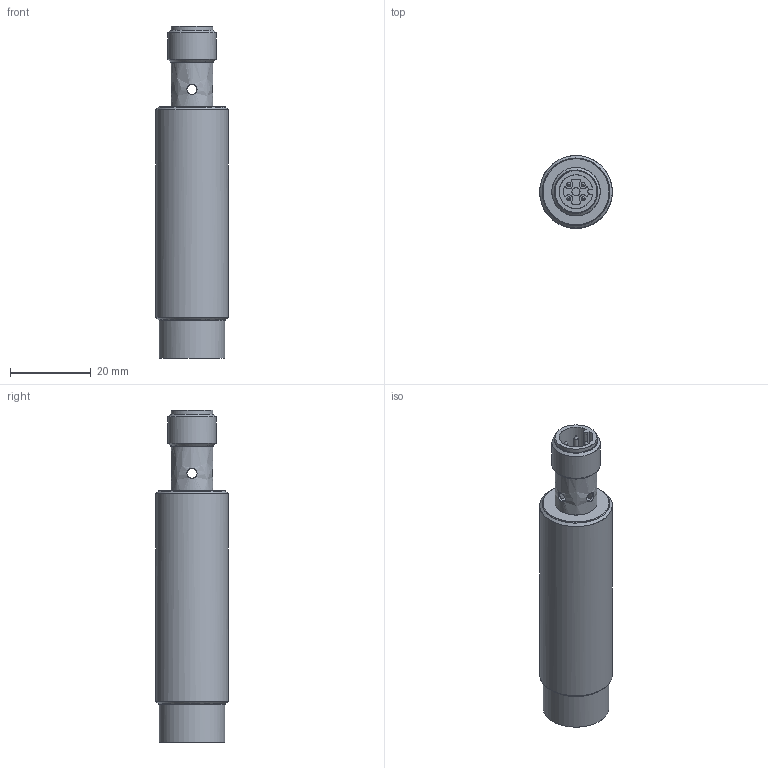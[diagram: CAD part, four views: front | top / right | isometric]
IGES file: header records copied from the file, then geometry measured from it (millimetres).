
Global section: file name: D:\dd\DSD-0337.igs; preprocessor: I-DEAS 3D IGES Translator 13; date: 20100125.170438; units: millimetre
Bounding box: 17.99 x 18 x 82.3 mm (x, y, z)
Surface area: 8686.4 mm2
Topology: 4 solids, 4 shells, 77 faces, 500 edges, 440 vertices
Faces by surface type: bspline 77
